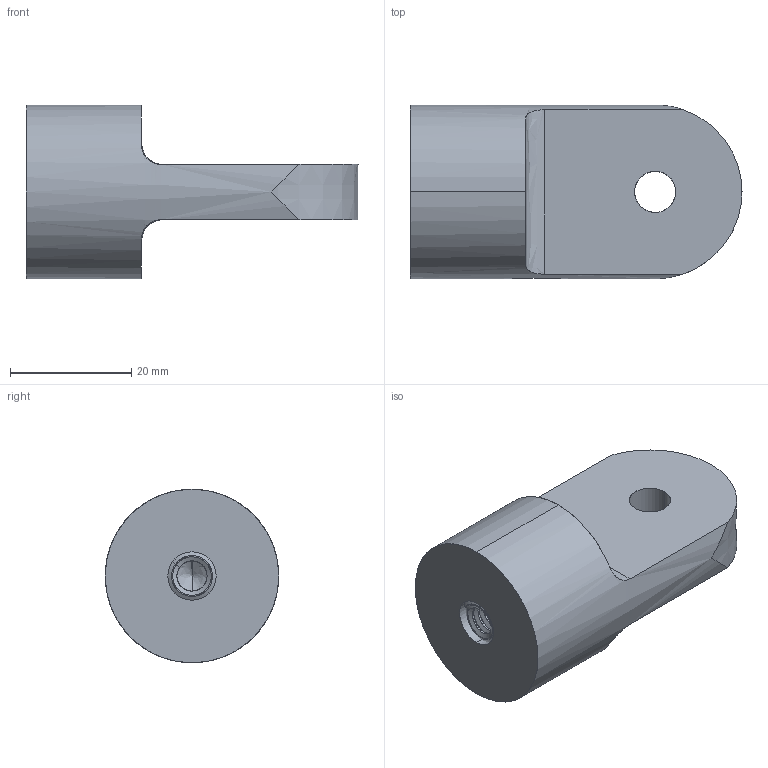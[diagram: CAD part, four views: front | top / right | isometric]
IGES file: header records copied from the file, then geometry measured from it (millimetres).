
Start section: SolidWorks IGES file using analytic representation for surfaces
Global section: file name: \\SERVER3\Design\_New Design Drive Folder List\_Design Vault\AAI\Modular Round Tube Connectors\Solidworks Models\STP Files\12202013\1.000 Inch Modular Connectors\DRP-002-0522-00.IGS; native system: SolidWorks 2013; preprocessor: SolidWorks 2013; author: tbraun; date: 131220.115501; units: inch
Bounding box: 54.69 x 28.57 x 28.57 mm (x, y, z)
Surface area: 6237.9 mm2 (no closed solid volume)
Topology: 0 solids, 0 shells, 27 faces, 419 edges, 417 vertices
Faces by surface type: bspline 15, revolution 12
